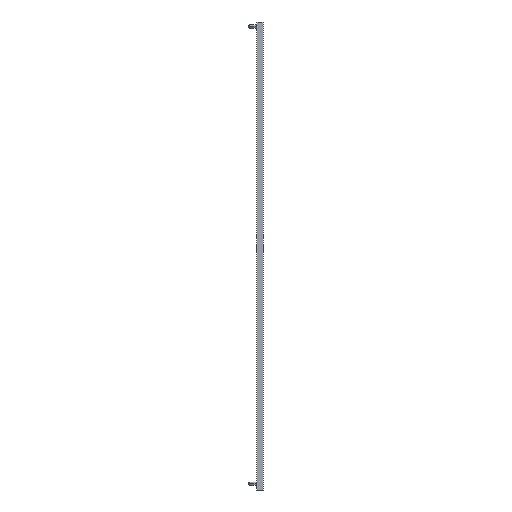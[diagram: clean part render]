
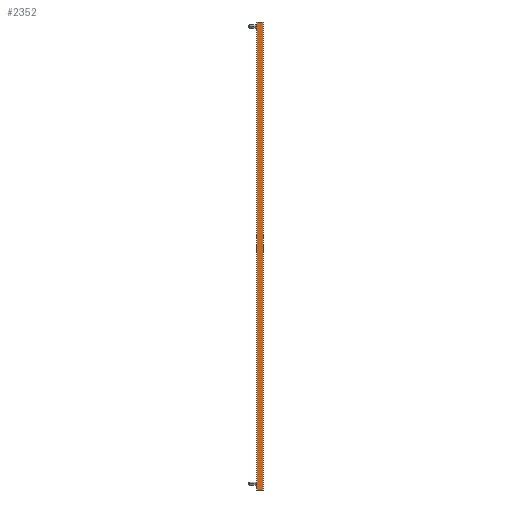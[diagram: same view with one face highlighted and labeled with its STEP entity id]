
A CAD part, left-side view. The second image highlights one B-rep face of the part: STEP entity #2352.
In plain terms, the highlighted planar face has unit normal (-1, 0, 0).
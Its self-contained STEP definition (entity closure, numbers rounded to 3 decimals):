
#114 = VERTEX_POINT ( 'NONE', #1367 ) ;
#128 = VECTOR ( 'NONE', #2132, 1000. ) ;
#181 = EDGE_CURVE ( 'NONE', #1571, #2986, #2097, .T. ) ;
#226 = EDGE_CURVE ( 'NONE', #2948, #1321, #302, .T. ) ;
#237 = ORIENTED_EDGE ( 'NONE', *, *, #1185, .T. ) ;
#302 = LINE ( 'NONE', #1344, #3089 ) ;
#427 = CARTESIAN_POINT ( 'NONE',  ( -8., 9.3, 0. ) ) ;
#564 = CARTESIAN_POINT ( 'NONE',  ( -8., 0., 0. ) ) ;
#591 = DIRECTION ( 'NONE',  ( 0., 0., 1. ) ) ;
#675 = DIRECTION ( 'NONE',  ( 0., -1., 0. ) ) ;
#693 = VECTOR ( 'NONE', #1930, 1000. ) ;
#717 = EDGE_CURVE ( 'NONE', #3260, #2986, #2974, .T. ) ;
#812 = CARTESIAN_POINT ( 'NONE',  ( -8., 12.5, 879. ) ) ;
#842 = CARTESIAN_POINT ( 'NONE',  ( -8., 12.5, 879. ) ) ;
#860 = LINE ( 'NONE', #1054, #2519 ) ;
#864 = DIRECTION ( 'NONE',  ( 0., -1., 0. ) ) ;
#874 = FACE_OUTER_BOUND ( 'NONE', #1027, .T. ) ;
#923 = CARTESIAN_POINT ( 'NONE',  ( -8., 0., 879. ) ) ;
#996 = ORIENTED_EDGE ( 'NONE', *, *, #181, .F. ) ;
#1027 = EDGE_LOOP ( 'NONE', ( #3240, #237, #1301, #1697, #2981, #2922, #1494, #996 ) ) ;
#1054 = CARTESIAN_POINT ( 'NONE',  ( -8., 0., 879. ) ) ;
#1102 = VECTOR ( 'NONE', #2567, 1000. ) ;
#1168 = CARTESIAN_POINT ( 'NONE',  ( -8., 12.5, 879. ) ) ;
#1185 = EDGE_CURVE ( 'NONE', #2564, #2989, #2182, .T. ) ;
#1290 = CARTESIAN_POINT ( 'NONE',  ( -8., 0., 0. ) ) ;
#1292 = VECTOR ( 'NONE', #864, 1000. ) ;
#1301 = ORIENTED_EDGE ( 'NONE', *, *, #1807, .T. ) ;
#1321 = VERTEX_POINT ( 'NONE', #3239 ) ;
#1344 = CARTESIAN_POINT ( 'NONE',  ( -8., 0., 879. ) ) ;
#1367 = CARTESIAN_POINT ( 'NONE',  ( -8., 3.2, 0. ) ) ;
#1494 = ORIENTED_EDGE ( 'NONE', *, *, #717, .T. ) ;
#1553 = AXIS2_PLACEMENT_3D ( 'NONE', #1883, #2894, #2645 ) ;
#1557 = LINE ( 'NONE', #1605, #1102 ) ;
#1562 = DIRECTION ( 'NONE',  ( 0., 0., 1. ) ) ;
#1571 = VERTEX_POINT ( 'NONE', #1168 ) ;
#1605 = CARTESIAN_POINT ( 'NONE',  ( -8., 0., 0. ) ) ;
#1697 = ORIENTED_EDGE ( 'NONE', *, *, #2602, .T. ) ;
#1758 = CARTESIAN_POINT ( 'NONE',  ( -8., 3.2, 879. ) ) ;
#1785 = EDGE_CURVE ( 'NONE', #1321, #3260, #860, .T. ) ;
#1807 = EDGE_CURVE ( 'NONE', #2989, #114, #1557, .T. ) ;
#1848 = VECTOR ( 'NONE', #1562, 1000. ) ;
#1851 = CARTESIAN_POINT ( 'NONE',  ( -8., 9.3, 879. ) ) ;
#1883 = CARTESIAN_POINT ( 'NONE',  ( -8., 0., 879. ) ) ;
#1927 = CARTESIAN_POINT ( 'NONE',  ( -8., 0., 0. ) ) ;
#1930 = DIRECTION ( 'NONE',  ( 0., 1., 0. ) ) ;
#2097 = LINE ( 'NONE', #842, #1292 ) ;
#2099 = LINE ( 'NONE', #564, #128 ) ;
#2132 = DIRECTION ( 'NONE',  ( 0., -1., 0. ) ) ;
#2182 = LINE ( 'NONE', #1927, #2281 ) ;
#2281 = VECTOR ( 'NONE', #675, 1000. ) ;
#2352 = ADVANCED_FACE ( 'NONE', ( #874 ), #2880, .T. ) ;
#2519 = VECTOR ( 'NONE', #2816, 1000. ) ;
#2564 = VERTEX_POINT ( 'NONE', #2573 ) ;
#2567 = DIRECTION ( 'NONE',  ( 0., -1., 0. ) ) ;
#2573 = CARTESIAN_POINT ( 'NONE',  ( -8., 12.5, 0. ) ) ;
#2602 = EDGE_CURVE ( 'NONE', #114, #2948, #2099, .T. ) ;
#2603 = EDGE_CURVE ( 'NONE', #2564, #1571, #3135, .T. ) ;
#2645 = DIRECTION ( 'NONE',  ( 0., 0., 1. ) ) ;
#2816 = DIRECTION ( 'NONE',  ( 0., 1., 0. ) ) ;
#2880 = PLANE ( 'NONE',  #1553 ) ;
#2894 = DIRECTION ( 'NONE',  ( -1., 0., 0. ) ) ;
#2922 = ORIENTED_EDGE ( 'NONE', *, *, #1785, .T. ) ;
#2948 = VERTEX_POINT ( 'NONE', #1290 ) ;
#2974 = LINE ( 'NONE', #923, #693 ) ;
#2981 = ORIENTED_EDGE ( 'NONE', *, *, #226, .T. ) ;
#2986 = VERTEX_POINT ( 'NONE', #1851 ) ;
#2989 = VERTEX_POINT ( 'NONE', #427 ) ;
#3089 = VECTOR ( 'NONE', #591, 1000. ) ;
#3135 = LINE ( 'NONE', #812, #1848 ) ;
#3239 = CARTESIAN_POINT ( 'NONE',  ( -8., 0., 879. ) ) ;
#3240 = ORIENTED_EDGE ( 'NONE', *, *, #2603, .F. ) ;
#3260 = VERTEX_POINT ( 'NONE', #1758 ) ;
